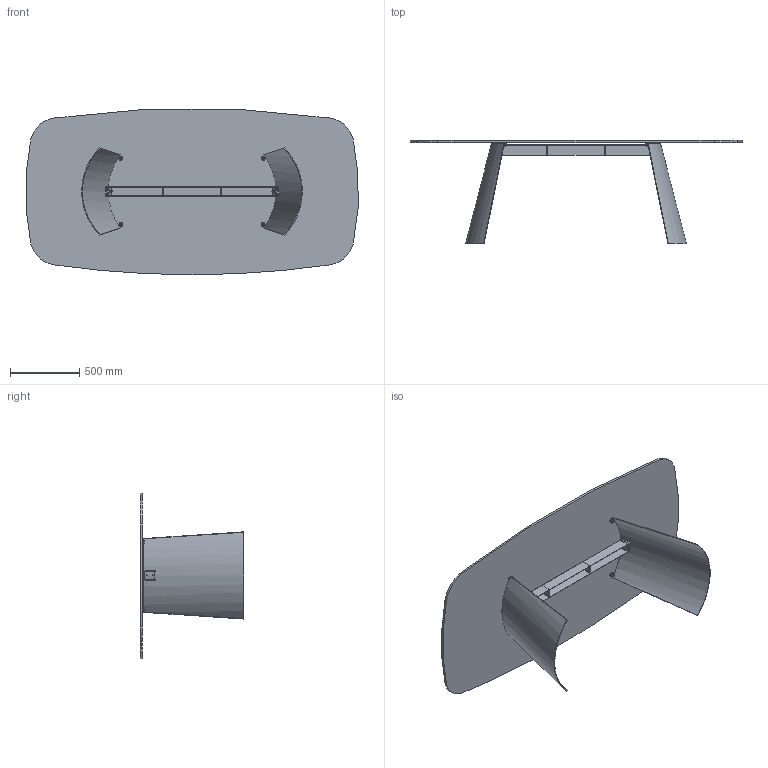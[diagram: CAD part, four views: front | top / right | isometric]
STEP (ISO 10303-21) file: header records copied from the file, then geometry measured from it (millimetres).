
FILE_DESCRIPTION (( 'STEP AP203' ), '1' );
FILE_NAME ('DN43G.STEP', '2024-08-07T15:10:03', ( '' ), ( '' ), 'SwSTEP 2.0', 'SolidWorks 2022', '' );
FILE_SCHEMA (( 'CONFIG_CONTROL_DESIGN' ));
Length unit declared in the file: millimetre
Products named in the file (14): rondella M8_8X16; GRANO M8X35_barra; DNB300000_02-02-RISCONTRO STANGONE CENTRALE; 434070-00-PIEDINO TPV GOMMA NERO D. 30x8max18; DNB400000-02-ASSIEME STRUTTURA COMPLETA_L.1250; DNB300000_01-02-GAMBA DORIAN; SDNB300000-02-GAMBA X TRASP; DNBX00000-01-DORIAN TRAVERSO LXXXX PER TAVOLO LX00_L.1250; nut_M8_M8; DN43G; feltro Ø12x3; rondella M8X24; C4XCRXX-00-Piani Sagomati in Cristallo_2400 x 1200; DNB300000_03-02-PIASTRINA
Assembly tree (37 placements, depth 4):
  DN43G
    C4XCRXX-00-Piani Sagomati in Cristallo_2400 x 1200
    DNB400000-02-ASSIEME STRUTTURA COMPLETA_L.1250
      SDNB300000-02-GAMBA X TRASP  x2
        DNB300000_01-02-GAMBA DORIAN
        DNB300000_02-02-RISCONTRO STANGONE CENTRALE
        DNB300000_03-02-PIASTRINA
      DNBX00000-01-DORIAN TRAVERSO LXXXX PER TAVOLO LX00_L.1250
    434070-00-PIEDINO TPV GOMMA NERO D. 30x8max18  x4
    nut_M8_M8  x8
    rondella M8X24  x4
    GRANO M8X35_barra  x4
    rondella M8_8X16  x4
    feltro Ø12x3  x4
Bounding box: 2391.62 x 745 x 1192.03 mm (x, y, z)
Volume: 45566805.6 mm3; surface area: 7949500.8 mm2
Topology: 46 solids, 46 shells, 583 faces, 1345 edges, 854 vertices
Faces by surface type: plane 248, cylinder 157, torus 80, cone 80, bspline 18
Entity records: 10160 total; most frequent: CARTESIAN_POINT 2001, DIRECTION 1290, ORIENTED_EDGE 1222, EDGE_CURVE 611, AXIS2_PLACEMENT_3D 459, VERTEX_POINT 398, LINE 372, VECTOR 372
